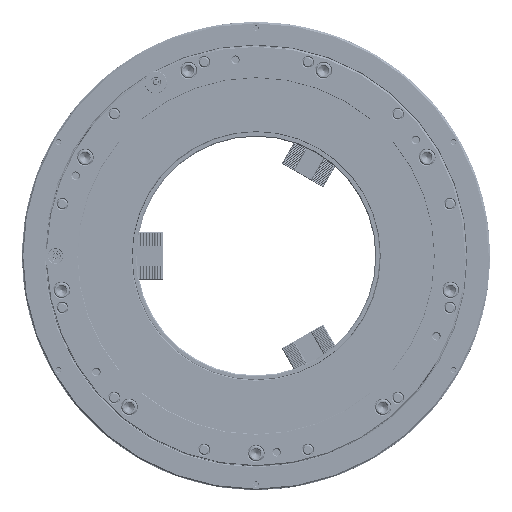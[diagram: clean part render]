
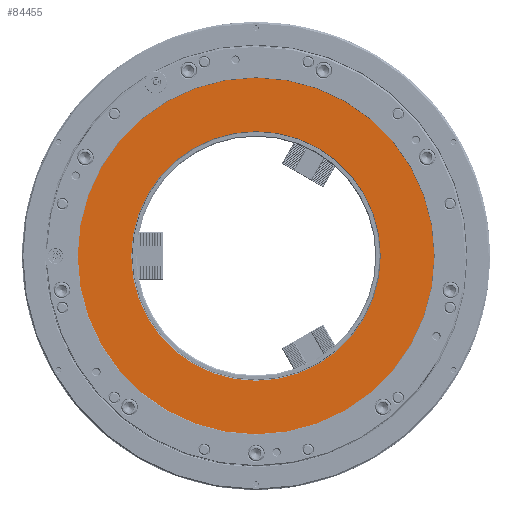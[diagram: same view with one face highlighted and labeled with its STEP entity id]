
A CAD part, left-side view. The second image highlights one B-rep face of the part: STEP entity #84455.
In plain terms, the highlighted planar face has unit normal (-1, 0, 0).
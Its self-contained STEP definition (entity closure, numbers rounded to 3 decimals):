
#2473 = CARTESIAN_POINT ( 'NONE',  ( -20., 0., 196. ) ) ;
#24403 = DIRECTION ( 'NONE',  ( 0., 0., 1. ) ) ;
#26782 = AXIS2_PLACEMENT_3D ( 'NONE', #217474, #70572, #154390 ) ;
#28942 = DIRECTION ( 'NONE',  ( 0., 0., -1. ) ) ;
#41486 = AXIS2_PLACEMENT_3D ( 'NONE', #159929, #234221, #58258 ) ;
#43070 = AXIS2_PLACEMENT_3D ( 'NONE', #218203, #318297, #24403 ) ;
#43727 = ORIENTED_EDGE ( 'NONE', *, *, #198724, .T. ) ;
#48479 = AXIS2_PLACEMENT_3D ( 'NONE', #211465, #205142, #161510 ) ;
#53771 = EDGE_LOOP ( 'NONE', ( #43727, #169853 ) ) ;
#58258 = DIRECTION ( 'NONE',  ( 0., 0., 1. ) ) ;
#70572 = DIRECTION ( 'NONE',  ( 1., 0., 0. ) ) ;
#84372 = CIRCLE ( 'NONE', #43070, 196. ) ;
#84455 = ADVANCED_FACE ( 'NONE', ( #106430, #303404 ), #182320, .F. ) ;
#98952 = CIRCLE ( 'NONE', #26782, 280. ) ;
#99751 = CARTESIAN_POINT ( 'NONE',  ( -20., 0., -196. ) ) ;
#101695 = EDGE_LOOP ( 'NONE', ( #278986, #251499 ) ) ;
#106430 = FACE_OUTER_BOUND ( 'NONE', #101695, .T. ) ;
#118720 = VERTEX_POINT ( 'NONE', #154756 ) ;
#151728 = DIRECTION ( 'NONE',  ( 1., 0., 0. ) ) ;
#154390 = DIRECTION ( 'NONE',  ( 0., 0., 1. ) ) ;
#154444 = EDGE_CURVE ( 'NONE', #306211, #118720, #180716, .T. ) ;
#154756 = CARTESIAN_POINT ( 'NONE',  ( -20., 0., -280. ) ) ;
#157234 = EDGE_CURVE ( 'NONE', #225507, #224474, #84372, .T. ) ;
#159929 = CARTESIAN_POINT ( 'NONE',  ( -20., 0., 0. ) ) ;
#161510 = DIRECTION ( 'NONE',  ( 0., 0., 1. ) ) ;
#169853 = ORIENTED_EDGE ( 'NONE', *, *, #157234, .T. ) ;
#180716 = CIRCLE ( 'NONE', #41486, 280. ) ;
#182320 = PLANE ( 'NONE',  #202679 ) ;
#198724 = EDGE_CURVE ( 'NONE', #224474, #225507, #301148, .T. ) ;
#202679 = AXIS2_PLACEMENT_3D ( 'NONE', #300246, #151728, #28942 ) ;
#205142 = DIRECTION ( 'NONE',  ( 1., 0., 0. ) ) ;
#211465 = CARTESIAN_POINT ( 'NONE',  ( -20., 0., 0. ) ) ;
#217474 = CARTESIAN_POINT ( 'NONE',  ( -20., 0., 0. ) ) ;
#218203 = CARTESIAN_POINT ( 'NONE',  ( -20., 0., 0. ) ) ;
#224474 = VERTEX_POINT ( 'NONE', #2473 ) ;
#225507 = VERTEX_POINT ( 'NONE', #99751 ) ;
#234221 = DIRECTION ( 'NONE',  ( 1., 0., 0. ) ) ;
#246901 = CARTESIAN_POINT ( 'NONE',  ( -20., 0., 280. ) ) ;
#251499 = ORIENTED_EDGE ( 'NONE', *, *, #301376, .F. ) ;
#278986 = ORIENTED_EDGE ( 'NONE', *, *, #154444, .F. ) ;
#300246 = CARTESIAN_POINT ( 'NONE',  ( -20., 196., 0. ) ) ;
#301148 = CIRCLE ( 'NONE', #48479, 196. ) ;
#301376 = EDGE_CURVE ( 'NONE', #118720, #306211, #98952, .T. ) ;
#303404 = FACE_BOUND ( 'NONE', #53771, .T. ) ;
#306211 = VERTEX_POINT ( 'NONE', #246901 ) ;
#318297 = DIRECTION ( 'NONE',  ( 1., 0., 0. ) ) ;
